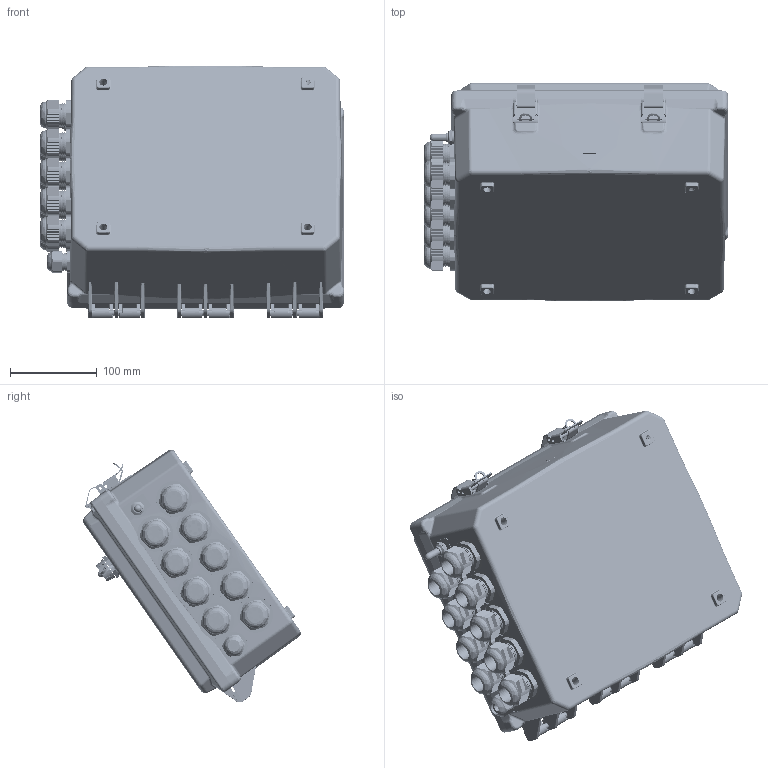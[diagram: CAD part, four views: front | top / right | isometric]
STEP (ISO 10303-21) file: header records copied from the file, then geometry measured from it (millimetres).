
FILE_DESCRIPTION (( 'STEP AP203' ), '1' );
FILE_NAME ('W900 Shell.STEP', '2018-03-09T18:34:08', ( '' ), ( '' ), 'SwSTEP 2.0', 'SolidWorks 2016', '' );
FILE_SCHEMA (( 'CONFIG_CONTROL_DESIGN' ));
Products named in the file (1): W900 Shell
Bounding box: 349.61 x 250.27 x 290.79 mm (x, y, z)
Volume: 1545768.9 mm3; surface area: 947052.8 mm2
Topology: 48 solids, 48 shells, 10770 faces, 28340 edges, 17770 vertices
Faces by surface type: plane 4791, cylinder 2758, bspline 2346, cone 523, torus 295, sphere 57
Entity records: 468529 total; most frequent: CARTESIAN_POINT 235495, ORIENTED_EDGE 56456, DIRECTION 37561, EDGE_CURVE 28228, VERTEX_POINT 17766, AXIS2_PLACEMENT_3D 12713, VECTOR 12135, LINE 12135
